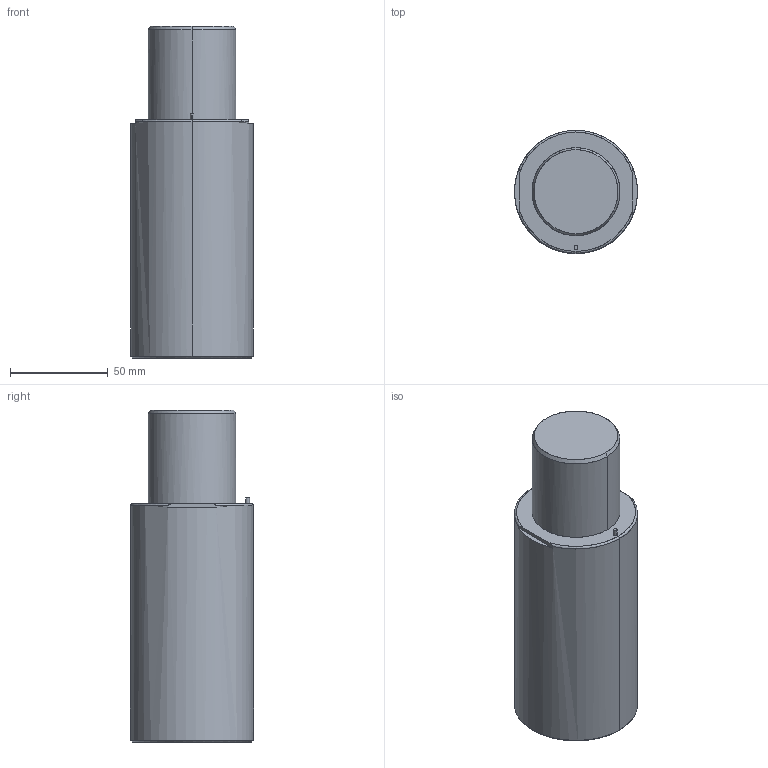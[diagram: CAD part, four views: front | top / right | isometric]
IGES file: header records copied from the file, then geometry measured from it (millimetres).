
Global section: file name: E:\UnigraphicsGraphicData\MISUMI_PRESS-PARTS\IGES\3d_gsx63-45_03992_r00.igs; native system: NX V5.0; preprocessor: UGS NX IGES V5.0; author: MISUMI; date: 20110105.160831; units: millimetre
Bounding box: 63 x 63 x 170 mm (x, y, z)
Surface area: 38578.2 mm2 (no closed solid volume)
Topology: 0 solids, 0 shells, 59 faces, 428 edges, 420 vertices
Faces by surface type: bspline 59
